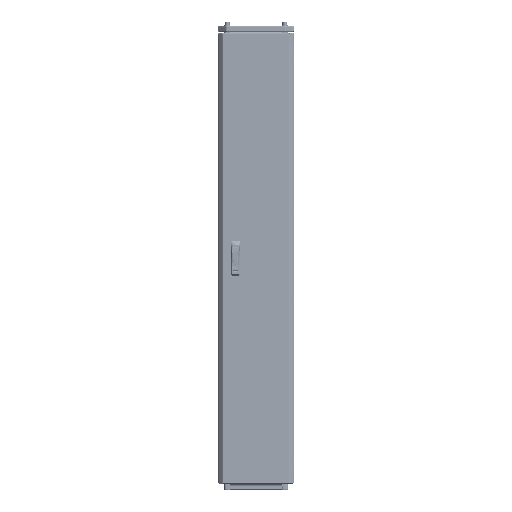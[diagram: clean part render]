
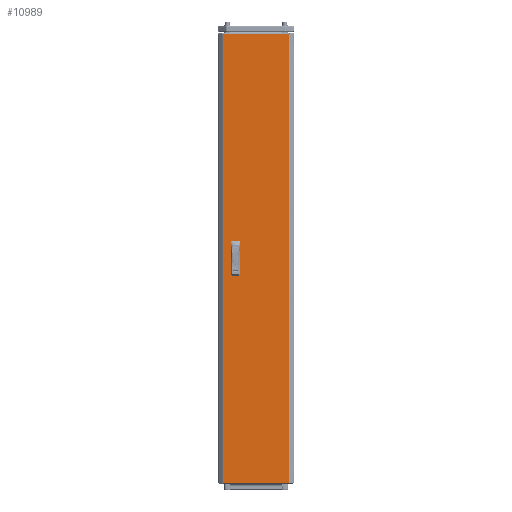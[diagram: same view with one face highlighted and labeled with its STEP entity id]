
A CAD part, top view. The second image highlights one B-rep face of the part: STEP entity #10989.
In plain terms, the highlighted planar face has unit normal (0, 0, 1).
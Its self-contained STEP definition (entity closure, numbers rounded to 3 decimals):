
#9964 = LINE ( 'NONE', #229357, #174066 ) ;
#10567 = CARTESIAN_POINT ( 'NONE',  ( -67.5, -12.5, 0. ) ) ;
#10989 = ADVANCED_FACE ( 'NONE', ( #202306, #20228, #127547 ), #35959, .F. ) ;
#12609 = VERTEX_POINT ( 'NONE', #217831 ) ;
#12668 = DIRECTION ( 'NONE',  ( 0., -1., 0. ) ) ;
#13855 = VECTOR ( 'NONE', #89471, 1000. ) ;
#14770 = CARTESIAN_POINT ( 'NONE',  ( -92.5, 12.5, 0. ) ) ;
#20228 = FACE_BOUND ( 'NONE', #165040, .T. ) ;
#21342 = CARTESIAN_POINT ( 'NONE',  ( -92.5, 12.5, 0. ) ) ;
#26168 = LINE ( 'NONE', #118939, #207608 ) ;
#29724 = ORIENTED_EDGE ( 'NONE', *, *, #64070, .F. ) ;
#35117 = EDGE_CURVE ( 'NONE', #95259, #12609, #9964, .T. ) ;
#35959 = PLANE ( 'NONE',  #92971 ) ;
#37354 = VERTEX_POINT ( 'NONE', #176054 ) ;
#39174 = DIRECTION ( 'NONE',  ( 0., 1., 0. ) ) ;
#43528 = EDGE_CURVE ( 'NONE', #96425, #123477, #211073, .T. ) ;
#44522 = CARTESIAN_POINT ( 'NONE',  ( -92.5, -12.5, 0. ) ) ;
#46895 = LINE ( 'NONE', #44522, #86284 ) ;
#51188 = ORIENTED_EDGE ( 'NONE', *, *, #193135, .T. ) ;
#54182 = VECTOR ( 'NONE', #193036, 1000. ) ;
#54337 = ORIENTED_EDGE ( 'NONE', *, *, #43528, .F. ) ;
#55243 = CARTESIAN_POINT ( 'NONE',  ( -127.875, 869.5, 0. ) ) ;
#55501 = VECTOR ( 'NONE', #12668, 1000. ) ;
#55544 = DIRECTION ( 'NONE',  ( 0., 1., 0. ) ) ;
#60408 = LINE ( 'NONE', #61581, #54182 ) ;
#60510 = DIRECTION ( 'NONE',  ( 0., -1., 0. ) ) ;
#61581 = CARTESIAN_POINT ( 'NONE',  ( -92.5, 12.5, 0. ) ) ;
#64070 = EDGE_CURVE ( 'NONE', #12609, #208614, #84685, .T. ) ;
#64253 = VERTEX_POINT ( 'NONE', #215811 ) ;
#69630 = CARTESIAN_POINT ( 'NONE',  ( -67.5, -62.5, 0. ) ) ;
#72854 = CARTESIAN_POINT ( 'NONE',  ( 127.875, -869.5, 0. ) ) ;
#78889 = CARTESIAN_POINT ( 'NONE',  ( -92.5, -62.5, 0. ) ) ;
#81979 = DIRECTION ( 'NONE',  ( 1., 0., 0. ) ) ;
#84685 = LINE ( 'NONE', #14770, #118550 ) ;
#85737 = EDGE_CURVE ( 'NONE', #117178, #136882, #199520, .T. ) ;
#86284 = VECTOR ( 'NONE', #103554, 1000. ) ;
#87491 = ORIENTED_EDGE ( 'NONE', *, *, #222003, .F. ) ;
#89471 = DIRECTION ( 'NONE',  ( 1., 0., 0. ) ) ;
#91341 = CARTESIAN_POINT ( 'NONE',  ( 0., 0., 0. ) ) ;
#92841 = VECTOR ( 'NONE', #39174, 1000. ) ;
#92971 = AXIS2_PLACEMENT_3D ( 'NONE', #91341, #109450, #183064 ) ;
#95259 = VERTEX_POINT ( 'NONE', #130192 ) ;
#96425 = VERTEX_POINT ( 'NONE', #78889 ) ;
#98580 = VERTEX_POINT ( 'NONE', #10567 ) ;
#102065 = VERTEX_POINT ( 'NONE', #231484 ) ;
#103554 = DIRECTION ( 'NONE',  ( -1., 0., 0. ) ) ;
#104005 = DIRECTION ( 'NONE',  ( 0., -1., 0. ) ) ;
#104591 = CARTESIAN_POINT ( 'NONE',  ( -92.5, -62.5, 0. ) ) ;
#109046 = LINE ( 'NONE', #72854, #220106 ) ;
#109450 = DIRECTION ( 'NONE',  ( 0., 0., -1. ) ) ;
#111156 = CARTESIAN_POINT ( 'NONE',  ( -127.875, -869.5, 0. ) ) ;
#112651 = LINE ( 'NONE', #191051, #92841 ) ;
#115241 = EDGE_CURVE ( 'NONE', #64253, #96425, #130537, .T. ) ;
#116046 = DIRECTION ( 'NONE',  ( -1., 0., 0. ) ) ;
#117178 = VERTEX_POINT ( 'NONE', #55243 ) ;
#118550 = VECTOR ( 'NONE', #104005, 1000. ) ;
#118939 = CARTESIAN_POINT ( 'NONE',  ( -127.875, 869.5, 0. ) ) ;
#123477 = VERTEX_POINT ( 'NONE', #69630 ) ;
#127520 = EDGE_CURVE ( 'NONE', #157252, #95259, #237629, .T. ) ;
#127547 = FACE_OUTER_BOUND ( 'NONE', #146409, .T. ) ;
#128999 = EDGE_CURVE ( 'NONE', #98580, #64253, #46895, .T. ) ;
#129218 = ORIENTED_EDGE ( 'NONE', *, *, #128999, .F. ) ;
#130192 = CARTESIAN_POINT ( 'NONE',  ( -67.5, 62.5, 0. ) ) ;
#130537 = LINE ( 'NONE', #171461, #176787 ) ;
#136882 = VERTEX_POINT ( 'NONE', #219057 ) ;
#137041 = DIRECTION ( 'NONE',  ( -1., 0., 0. ) ) ;
#139354 = CARTESIAN_POINT ( 'NONE',  ( -67.5, 12.5, 0. ) ) ;
#139727 = VECTOR ( 'NONE', #81979, 1000. ) ;
#146409 = EDGE_LOOP ( 'NONE', ( #51188, #159255, #180882, #201435 ) ) ;
#157252 = VERTEX_POINT ( 'NONE', #139354 ) ;
#159255 = ORIENTED_EDGE ( 'NONE', *, *, #188112, .T. ) ;
#164158 = ORIENTED_EDGE ( 'NONE', *, *, #127520, .F. ) ;
#165040 = EDGE_LOOP ( 'NONE', ( #129218, #87491, #54337, #222012 ) ) ;
#165299 = CARTESIAN_POINT ( 'NONE',  ( -67.5, 12.5, 0. ) ) ;
#171461 = CARTESIAN_POINT ( 'NONE',  ( -92.5, -62.5, 0. ) ) ;
#174066 = VECTOR ( 'NONE', #116046, 1000. ) ;
#175703 = EDGE_LOOP ( 'NONE', ( #176275, #164158, #211404, #29724 ) ) ;
#176054 = CARTESIAN_POINT ( 'NONE',  ( 127.875, 869.5, 0. ) ) ;
#176275 = ORIENTED_EDGE ( 'NONE', *, *, #35117, .F. ) ;
#176787 = VECTOR ( 'NONE', #60510, 1000. ) ;
#177846 = CARTESIAN_POINT ( 'NONE',  ( -127.875, -869.5, 0. ) ) ;
#180882 = ORIENTED_EDGE ( 'NONE', *, *, #85737, .T. ) ;
#182394 = LINE ( 'NONE', #111156, #13855 ) ;
#183064 = DIRECTION ( 'NONE',  ( -1., 0., 0. ) ) ;
#185043 = DIRECTION ( 'NONE',  ( 0., 1., 0. ) ) ;
#188112 = EDGE_CURVE ( 'NONE', #37354, #117178, #26168, .T. ) ;
#191051 = CARTESIAN_POINT ( 'NONE',  ( -67.5, -62.5, 0. ) ) ;
#191752 = EDGE_CURVE ( 'NONE', #208614, #157252, #60408, .T. ) ;
#193036 = DIRECTION ( 'NONE',  ( 1., 0., 0. ) ) ;
#193135 = EDGE_CURVE ( 'NONE', #102065, #37354, #109046, .T. ) ;
#199520 = LINE ( 'NONE', #177846, #55501 ) ;
#201435 = ORIENTED_EDGE ( 'NONE', *, *, #208899, .T. ) ;
#202306 = FACE_BOUND ( 'NONE', #175703, .T. ) ;
#207608 = VECTOR ( 'NONE', #137041, 1000. ) ;
#208614 = VERTEX_POINT ( 'NONE', #21342 ) ;
#208899 = EDGE_CURVE ( 'NONE', #136882, #102065, #182394, .T. ) ;
#211073 = LINE ( 'NONE', #104591, #139727 ) ;
#211404 = ORIENTED_EDGE ( 'NONE', *, *, #191752, .F. ) ;
#215811 = CARTESIAN_POINT ( 'NONE',  ( -92.5, -12.5, 0. ) ) ;
#216773 = VECTOR ( 'NONE', #55544, 1000. ) ;
#217831 = CARTESIAN_POINT ( 'NONE',  ( -92.5, 62.5, 0. ) ) ;
#219057 = CARTESIAN_POINT ( 'NONE',  ( -127.875, -869.5, 0. ) ) ;
#220106 = VECTOR ( 'NONE', #185043, 1000. ) ;
#222003 = EDGE_CURVE ( 'NONE', #123477, #98580, #112651, .T. ) ;
#222012 = ORIENTED_EDGE ( 'NONE', *, *, #115241, .F. ) ;
#229357 = CARTESIAN_POINT ( 'NONE',  ( -92.5, 62.5, 0. ) ) ;
#231484 = CARTESIAN_POINT ( 'NONE',  ( 127.875, -869.5, 0. ) ) ;
#237629 = LINE ( 'NONE', #165299, #216773 ) ;
